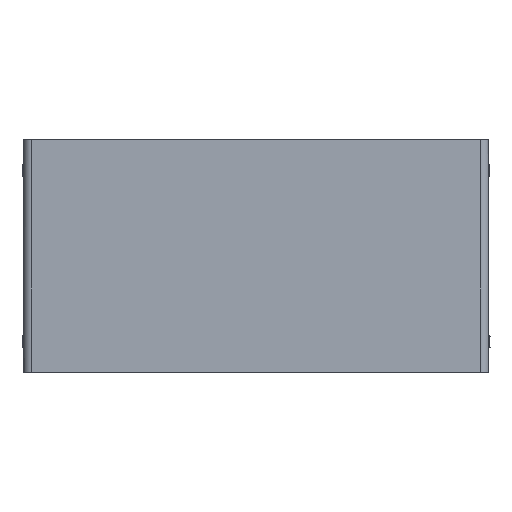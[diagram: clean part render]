
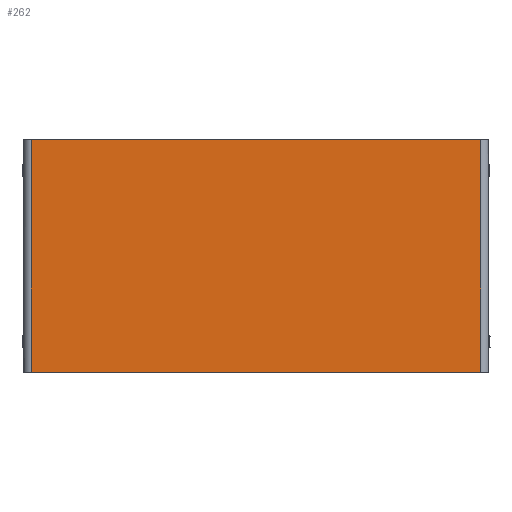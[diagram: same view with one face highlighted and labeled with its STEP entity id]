
A CAD part, top view. The second image highlights one B-rep face of the part: STEP entity #262.
In plain terms, the highlighted planar face has unit normal (0, 0, 1).
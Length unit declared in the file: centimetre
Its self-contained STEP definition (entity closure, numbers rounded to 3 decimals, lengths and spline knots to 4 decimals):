
#262=ADVANCED_FACE($,(#568),#3480,.T.);
#568=FACE_OUTER_BOUND($,#874,.T.);
#874=EDGE_LOOP($,(#1728,#1729,#1730,#1731));
#1728=ORIENTED_EDGE($,*,*,#2681,.T.);
#1729=ORIENTED_EDGE($,*,*,#2682,.T.);
#1730=ORIENTED_EDGE($,*,*,#2683,.T.);
#1731=ORIENTED_EDGE($,*,*,#2679,.F.);
#2679=EDGE_CURVE($,#3210,#3211,#3906,.T.);
#2681=EDGE_CURVE($,#3210,#3212,#3907,.T.);
#2682=EDGE_CURVE($,#3212,#3213,#3908,.T.);
#2683=EDGE_CURVE($,#3213,#3211,#3909,.T.);
#3210=VERTEX_POINT($,#6963);
#3211=VERTEX_POINT($,#6964);
#3212=VERTEX_POINT($,#6965);
#3213=VERTEX_POINT($,#6966);
#3480=PLANE($,#4526);
#3906=B_SPLINE_CURVE_WITH_KNOTS($,1,(#6864,#6865),.UNSPECIFIED.,.F.,.F.,
(2,2),(0.,600.),.UNSPECIFIED.);
#3907=B_SPLINE_CURVE_WITH_KNOTS($,1,(#6869,#6870),.UNSPECIFIED.,.F.,.F.,
(2,2),(0.,1160.),.UNSPECIFIED.);
#3908=B_SPLINE_CURVE_WITH_KNOTS($,1,(#6871,#6872),.UNSPECIFIED.,.F.,.F.,
(2,2),(0.,600.),.UNSPECIFIED.);
#3909=B_SPLINE_CURVE_WITH_KNOTS($,1,(#6873,#6874),.UNSPECIFIED.,.F.,.F.,
(2,2),(-1160.,0.),.UNSPECIFIED.);
#4526=AXIS2_PLACEMENT_3D($,#6930,#4679,$);
#4679=DIRECTION($,(0.,0.,1.));
#6864=CARTESIAN_POINT($,(115.2391,59.1652,31.4));
#6865=CARTESIAN_POINT($,(115.2391,-0.8348,31.4));
#6869=CARTESIAN_POINT($,(115.2391,59.1652,31.4));
#6870=CARTESIAN_POINT($,(-0.7609,59.1652,31.4));
#6871=CARTESIAN_POINT($,(-0.7609,59.1652,31.4));
#6872=CARTESIAN_POINT($,(-0.7609,-0.8348,31.4));
#6873=CARTESIAN_POINT($,(-0.7609,-0.8348,31.4));
#6874=CARTESIAN_POINT($,(115.2391,-0.8348,31.4));
#6930=CARTESIAN_POINT($,(115.2391,59.1652,31.4));
#6963=CARTESIAN_POINT($,(115.2391,59.1652,31.4));
#6964=CARTESIAN_POINT($,(115.2391,-0.8348,31.4));
#6965=CARTESIAN_POINT($,(-0.7609,59.1652,31.4));
#6966=CARTESIAN_POINT($,(-0.7609,-0.8348,31.4));
